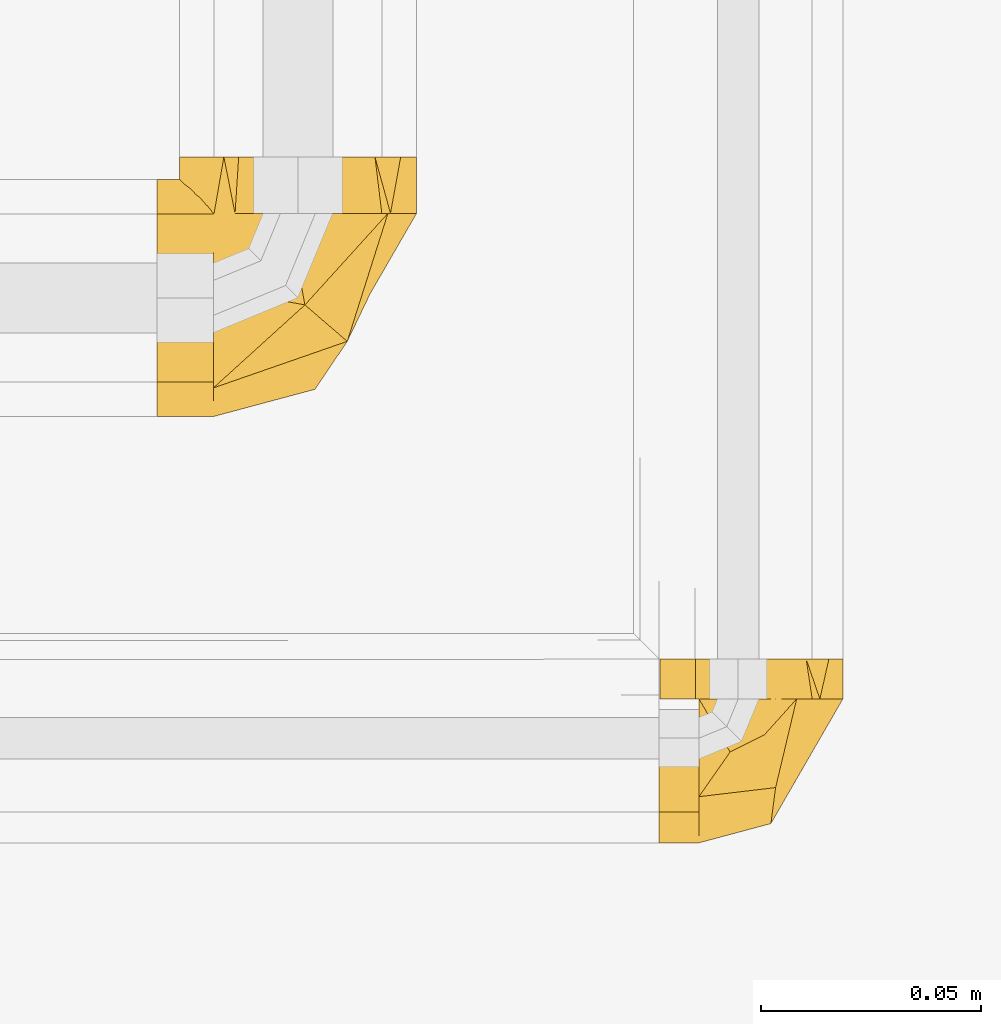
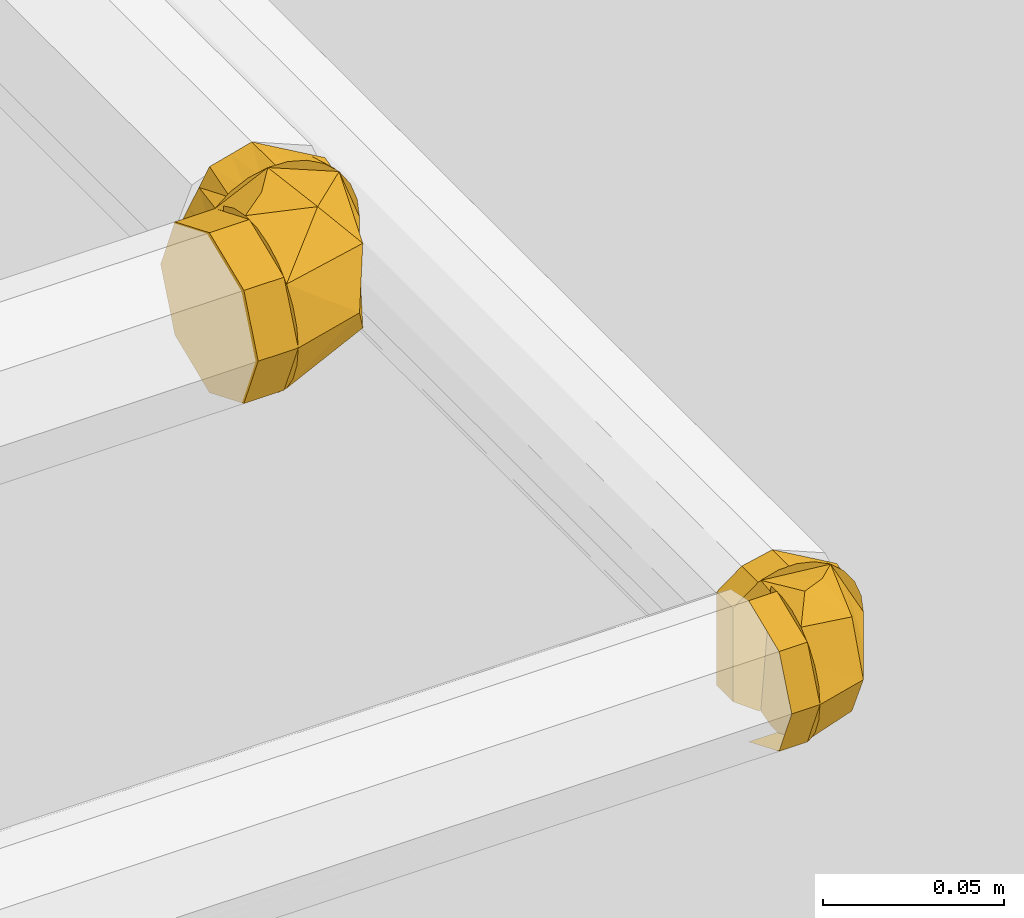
# One storey, part 307 of 652: 2 coverings.
"""IFC2X3 building model written with IfcOpenShell, lengths in millimetres."""

from ifc_helpers import new_model, entity, si_unit, converted_unit, direction, frame, origin, place, context, subcontext, project, spatial, face_set, surface_model, material, type_object, element, save


model = new_model("IFC2X3")

# Units and contexts
model_context = context("Model", 3, precision=0.01, world=frame((0.0, 0.0, 308426.39999999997)), true_north=direction((6.123233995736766e-17, 1.0)))
plan_context = context("Plan", 3, precision=0.01, world=frame((0.0, 0.0, 308426.39999999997)), true_north=direction((6.123233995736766e-17, 1.0)))
body_context = subcontext(model_context, "Body", "Model", "MODEL_VIEW")
ifc_project = project(units=[si_unit("LENGTHUNIT", "METRE", prefix="MILLI"), si_unit("AREAUNIT", "SQUARE_METRE"), si_unit("VOLUMEUNIT", "CUBIC_METRE"), converted_unit("PLANEANGLEUNIT", "DEGREE", entity("IfcPlaneAngleMeasure", 0.017453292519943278), si_unit("PLANEANGLEUNIT", "RADIAN"), dimensions=[0, 0, 0, 0, 0, 0, 0])], contexts=[model_context, plan_context])

# Site, building, storey
site_placement = place(None, origin())
site = spatial("IfcSite", under=ifc_project, at=site_placement, Name="Default", CompositionType="ELEMENT")
building_placement = place(site_placement, origin())
building = spatial("IfcBuilding", under=site, at=building_placement, CompositionType="ELEMENT")
storey_placement = place(building_placement, frame((0.0, 0.0, 1730.6999999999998)))
storey = spatial("IfcBuildingStorey", under=building, at=storey_placement, Name="EG_Produktion_FFB", CompositionType="ELEMENT", Elevation=1730.6999999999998)

# Coverings
ifc_material = material(Name="Dämmung - Armaflex-Schlauch")
covering_type = type_object("IfcCoveringType", Name="Rohrdämmung außen:Armaflex-Schlauch", PredefinedType="INSULATION")
covering_1_placement = place(storey_placement, frame((22456.694571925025, 55699.3730683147, 3371.467227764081)))
element("IfcCovering", 1, at=covering_1_placement, inside=storey, type_object=covering_type, material=ifc_material, Name="Rohrdämmung außen:Armaflex-Schlauch", ObjectType="Rohrdämmung außen:Armaflex-Schlauch", PredefinedType="INSULATION", context=body_context, shape_type="SurfaceModel", body=[
    surface_model("IfcFaceBasedSurfaceModel", [(12.766250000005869, 47.750272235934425, 9.656421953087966), (12.766250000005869, 42.79223424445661, 5.678961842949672), (12.766250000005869, 37.040242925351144, 2.9739802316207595), (12.766250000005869, 30.81456370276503, 1.6920879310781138), (12.766250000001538, 24.461836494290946, 1.904659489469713), (12.766250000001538, 18.3357751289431, 3.599859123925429), (12.766250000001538, 12.777472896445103, 6.683299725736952), (12.766250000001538, 8.096410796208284, 10.983298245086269), (12.766250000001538, 4.553225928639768, 16.26043484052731), (12.766250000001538, 2.345199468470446, 22.220883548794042), (12.766250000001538, 1.5952722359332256, 28.53277223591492), (12.766250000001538, 2.345199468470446, 34.844660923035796), (12.766250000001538, 4.553225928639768, 40.80510963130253), (12.766250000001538, 8.096410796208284, 46.08224622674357), (12.766250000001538, 12.777472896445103, 50.38224474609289), (12.766250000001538, 18.3357751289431, 53.46568534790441), (12.766250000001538, 24.461836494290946, 55.16088498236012), (12.766250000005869, 30.81456370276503, 55.373456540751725), (12.766250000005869, 37.040242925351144, 54.09156424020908), (12.766250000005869, 42.79223424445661, 51.38658262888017), (12.766250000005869, 47.750272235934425, 47.409122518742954), (17.72428799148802, 47.750272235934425, 5.678961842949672), (23.476279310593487, 47.750272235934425, 2.9739802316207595), (29.701958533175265, 47.750272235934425, 1.6920879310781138), (36.05468574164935, 47.750272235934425, 1.904659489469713), (42.180747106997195, 47.750272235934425, 3.599859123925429), (47.739049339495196, 47.750272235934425, 6.683299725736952), (52.420111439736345, 47.75027223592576, 10.983298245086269), (55.96329630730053, 47.75027223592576, 16.26043484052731), (58.17132276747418, 47.75027223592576, 22.220883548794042), (58.92125000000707, 47.75027223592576, 28.53277223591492), (58.17132276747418, 47.75027223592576, 34.844660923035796), (55.96329630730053, 47.75027223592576, 40.80510963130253), (52.420111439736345, 47.75027223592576, 46.08224622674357), (47.739049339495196, 47.750272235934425, 50.38224474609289), (42.180747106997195, 47.750272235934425, 53.46568534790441), (36.05468574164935, 47.750272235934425, 55.16088498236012), (29.701958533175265, 47.750272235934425, 55.373456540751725), (23.476279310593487, 47.750272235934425, 54.09156424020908), (17.72428799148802, 47.750272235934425, 51.38658262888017), (22.710054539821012, 39.07123100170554, 2.276435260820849), (35.84413657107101, 7.780117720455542, 28.532972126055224), (12.76647543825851, 19.453823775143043, 6.337815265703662), (33.56520590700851, 26.95104057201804, 3.599610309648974), (43.18322348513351, 18.67247611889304, 14.28500459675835), (48.37592978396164, 29.485769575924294, 28.532972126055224), (41.06009726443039, 47.749771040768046, 6.337815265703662), (43.18322348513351, 18.67247611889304, 42.78035829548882), (33.56520590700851, 26.95104057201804, 53.46575258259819), (22.710054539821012, 39.07123100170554, 54.7895089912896), (41.06009726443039, 47.749771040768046, 50.72812898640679), (12.76647543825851, 19.453823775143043, 50.72812898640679), (0.0, 1.5952722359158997, 28.532772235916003), (0.0, 3.567725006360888, 33.29469446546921), (0.0, 5.54017777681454, 38.05661669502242), (0.0, 7.512630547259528, 42.818538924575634), (0.0, 9.485083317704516, 47.58046115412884), (0.0, 14.247005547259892, 49.552913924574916), (0.0, 19.008927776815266, 51.525366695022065), (0.0, 23.77085000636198, 53.49781946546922), (0.0, 28.532772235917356, 55.470272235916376), (0.0, 33.29469446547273, 53.49781946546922), (0.0, 38.05661669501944, 51.525366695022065), (0.0, 42.81853892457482, 49.552913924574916), (0.0, 47.5804611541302, 47.58046115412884), (0.0, 49.55291392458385, 42.818538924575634), (0.0, 51.525366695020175, 38.05661669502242), (0.0, 53.49781946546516, 33.29469446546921), (0.0, 55.47027223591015, 28.532772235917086), (0.0, 53.497819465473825, 23.770850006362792), (0.0, 51.525366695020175, 19.008927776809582), (0.0, 49.55291392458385, 14.247005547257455), (0.0, 47.5804611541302, 9.485083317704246), (0.0, 42.818538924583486, 7.512630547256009), (0.0, 38.05661669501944, 5.540177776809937), (0.0, 33.29469446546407, 3.567725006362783), (0.0, 28.532772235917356, 1.595272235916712), (0.0, 23.77085000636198, 3.567725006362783), (0.0, 19.008927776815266, 5.540177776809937), (0.0, 14.247005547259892, 7.512630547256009), (0.0, 9.485083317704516, 9.485083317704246), (0.0, 7.512630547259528, 14.247005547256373), (0.0, 5.54017777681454, 19.008927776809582), (0.0, 3.567725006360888, 23.770850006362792), (12.766250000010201, 1.5952722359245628, 28.532772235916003), (12.766250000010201, 3.567725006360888, 23.770850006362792), (12.766250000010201, 5.54017777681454, 19.0089277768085), (12.766250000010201, 7.512630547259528, 14.24700554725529), (12.766250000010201, 9.48508331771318, 9.485083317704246), (12.766250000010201, 15.253472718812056, 7.095738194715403), (12.766250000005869, 21.021862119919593, 4.7063930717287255), (12.766250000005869, 28.532772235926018, 1.595272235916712), (12.766250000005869, 33.29469446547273, 3.567725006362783), (12.766250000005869, 38.05661669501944, 5.540177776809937), (12.766250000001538, 42.81853892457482, 7.512630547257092), (12.766250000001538, 47.58046115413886, 9.485083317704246), (12.766250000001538, 49.96980627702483, 15.25347271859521), (12.766250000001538, 52.35915139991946, 21.021862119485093), (12.766250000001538, 55.47027223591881, 28.532772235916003), (12.766250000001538, 53.497819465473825, 33.294694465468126), (12.766250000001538, 51.525366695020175, 38.05661669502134), (12.766250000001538, 49.552913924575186, 42.81853892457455), (12.766250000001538, 47.58046115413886, 47.58046115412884), (12.766250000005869, 41.8120717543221, 49.96980627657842), (12.766250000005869, 36.043682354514, 52.359151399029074), (12.766250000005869, 28.532772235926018, 55.470272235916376), (12.766250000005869, 23.770850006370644, 53.49781946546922), (12.766250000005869, 19.008927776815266, 51.52536669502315), (12.766250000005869, 14.247005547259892, 49.552913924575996), (12.766250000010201, 9.48508331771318, 47.58046115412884), (12.766250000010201, 7.095738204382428, 41.81207177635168), (12.766250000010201, 4.706393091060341, 36.043682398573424), (58.92125000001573, 60.51652223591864, 28.532772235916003), (55.554062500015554, 60.51652223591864, 22.700632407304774), (52.18687500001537, 60.516522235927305, 16.868492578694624), (48.819687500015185, 60.516522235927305, 11.036352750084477), (45.45250000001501, 60.51652223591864, 5.204212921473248), (38.718125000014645, 60.51652223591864, 3.399742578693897), (31.98375000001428, 60.51652223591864, 1.595272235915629), (26.151610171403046, 60.516522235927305, 4.962459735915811), (20.319470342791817, 60.516522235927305, 8.329647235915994), (14.487330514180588, 60.51652223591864, 11.696834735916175), (8.655190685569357, 60.51652223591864, 15.064022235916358), (6.85072034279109, 60.51652223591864, 21.79839723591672), (5.046250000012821, 60.51652223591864, 28.532772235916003), (8.413437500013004, 60.516522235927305, 34.36491206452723), (11.780625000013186, 60.516522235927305, 40.19705189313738), (15.147812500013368, 60.516522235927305, 46.02919172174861), (18.51500000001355, 60.51652223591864, 51.86133155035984), (25.249375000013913, 60.51652223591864, 53.66580189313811), (31.98375000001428, 60.51652223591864, 55.470272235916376), (37.81588982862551, 60.516522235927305, 52.10308473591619), (43.64802965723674, 60.516522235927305, 48.73589723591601), (49.480169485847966, 60.516522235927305, 45.36870973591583), (55.3123093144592, 60.51652223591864, 42.00152223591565), (57.116779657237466, 60.51652223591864, 35.26714723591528), (27.2218277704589, 47.75027223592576, 53.49781946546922), (22.459905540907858, 47.75027223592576, 51.525366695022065), (17.697983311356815, 47.75027223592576, 49.552913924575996), (12.936061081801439, 47.75027223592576, 47.58046115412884), (10.96360831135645, 47.75027223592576, 42.818538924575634), (8.99115554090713, 47.75027223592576, 38.05661669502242), (7.01870277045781, 47.75027223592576, 33.29469446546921), (5.046250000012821, 47.75027223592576, 28.532772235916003), (7.01870277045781, 47.75027223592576, 23.770850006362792), (8.99115554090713, 47.75027223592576, 19.008927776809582), (10.96360831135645, 47.750272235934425, 14.247005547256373), (12.936061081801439, 47.75027223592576, 9.485083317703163), (17.697983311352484, 47.75027223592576, 7.512630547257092), (22.459905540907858, 47.75027223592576, 5.540177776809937), (27.2218277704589, 47.75027223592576, 3.567725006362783), (31.98375000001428, 47.75027223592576, 1.595272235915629), (36.74567222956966, 47.75027223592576, 3.567725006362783), (41.507594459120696, 47.75027223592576, 5.540177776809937), (46.26951668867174, 47.75027223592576, 7.512630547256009), (51.03143891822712, 47.75027223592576, 9.485083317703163), (53.00389168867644, 47.75027223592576, 14.247005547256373), (54.97634445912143, 47.75027223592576, 19.008927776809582), (56.948797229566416, 47.75027223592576, 23.77085000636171), (58.921250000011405, 47.75027223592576, 28.532772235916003), (56.948797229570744, 47.75027223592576, 33.29469446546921), (54.97634445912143, 47.75027223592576, 38.05661669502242), (53.003891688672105, 47.75027223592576, 42.81853892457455), (51.03143891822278, 47.75027223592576, 47.58046115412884), (46.26951668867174, 47.75027223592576, 49.552913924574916), (41.507594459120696, 47.75027223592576, 51.525366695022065), (36.74567222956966, 47.75027223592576, 53.49781946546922), (31.98375000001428, 47.75027223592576, 55.470272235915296)], [face_set([[[0, 1, 2, 3, 4, 5, 6, 7, 8, 9, 10, 11, 12, 13, 14, 15, 16, 17, 18, 19]], [[20, 21, 22, 23, 24, 25, 26, 27, 28, 29, 30, 31, 32, 33, 34, 35, 36, 37, 38, 39]], [[0, 40, 3]], [[10, 7, 41]], [[42, 3, 43]], [[40, 43, 3]], [[23, 40, 0]], [[7, 43, 44]], [[45, 41, 44]], [[7, 44, 41]], [[27, 30, 45]], [[45, 44, 27]], [[43, 27, 44]], [[43, 23, 46]], [[43, 7, 42]], [[23, 43, 40]], [[46, 27, 43]], [[13, 10, 41]], [[33, 47, 45]], [[45, 30, 33]], [[48, 47, 33]], [[49, 48, 37]], [[48, 50, 37]], [[45, 47, 41]], [[20, 49, 37]], [[47, 48, 13]], [[17, 49, 20]], [[41, 47, 13]], [[48, 17, 51]], [[48, 33, 50]], [[17, 48, 49]], [[51, 13, 48]]]), face_set([[[52, 53, 54, 55, 56, 57, 58, 59, 60, 61, 62, 63, 64, 65, 66, 67, 68, 69, 70, 71, 72, 73, 74, 75, 76, 77, 78, 79, 80, 81, 82, 83]], [[84, 85, 86, 87, 88, 89, 90, 91, 92, 93, 94, 95, 96, 97, 98, 99, 100, 101, 102, 103, 104, 105, 106, 107, 108, 109, 110, 111]], [[111, 110, 109, 56, 55, 54, 53, 52, 84]], [[56, 109, 108, 107, 106, 105, 60, 59, 58, 57]], [[104, 103, 102, 64, 63, 62, 61, 60, 105]], [[64, 102, 101, 100, 99, 98, 68, 67, 66, 65]], [[97, 96, 95, 72, 71, 70, 69, 68, 98]], [[72, 95, 94, 93, 92, 91, 76, 75, 74, 73]], [[90, 89, 88, 80, 79, 78, 77, 76, 91]], [[80, 88, 87, 86, 85, 84, 52, 83, 82, 81]]]), face_set([[[112, 113, 114, 115, 116, 117, 118, 119, 120, 121, 122, 123, 124, 125, 126, 127, 128, 129, 130, 131, 132, 133, 134, 135]], [[136, 137, 138, 139, 140, 141, 142, 143, 144, 145, 146, 147, 148, 149, 150, 151, 152, 153, 154, 155, 156, 157, 158, 159, 160, 161, 162, 163, 164, 165, 166, 167]], [[146, 121, 147]], [[118, 150, 119]], [[150, 149, 119]], [[123, 145, 144]], [[144, 143, 124]], [[121, 146, 122]], [[120, 149, 148]], [[118, 151, 150]], [[149, 120, 119]], [[124, 123, 144]], [[148, 147, 121]], [[146, 145, 122]], [[123, 122, 145]], [[120, 148, 121]], [[154, 115, 155]], [[112, 158, 113]], [[158, 157, 113]], [[117, 153, 152]], [[152, 151, 118]], [[115, 154, 116]], [[114, 157, 156]], [[112, 159, 158]], [[157, 114, 113]], [[118, 117, 152]], [[156, 155, 115]], [[154, 153, 116]], [[117, 116, 153]], [[114, 156, 115]], [[162, 133, 163]], [[130, 166, 131]], [[166, 165, 131]], [[135, 161, 160]], [[160, 159, 112]], [[133, 162, 134]], [[132, 165, 164]], [[130, 167, 166]], [[165, 132, 131]], [[112, 135, 160]], [[164, 163, 133]], [[162, 161, 134]], [[135, 134, 161]], [[132, 164, 133]], [[138, 127, 139]], [[124, 142, 125]], [[142, 141, 125]], [[129, 137, 136]], [[136, 167, 130]], [[127, 138, 128]], [[126, 141, 140]], [[124, 143, 142]], [[141, 126, 125]], [[130, 129, 136]], [[140, 139, 127]], [[138, 137, 128]], [[129, 128, 137]], [[126, 140, 127]]])]),
])
covering_2_placement = place(storey_placement, frame((22569.28940103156, 55602.54806831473, 3274.642227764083)))
element("IfcCovering", 2, at=covering_2_placement, inside=storey, type_object=covering_type, material=ifc_material, Name="Rohrdämmung außen:Armaflex-Schlauch", ObjectType="Rohrdämmung außen:Armaflex-Schlauch", PredefinedType="INSULATION", context=body_context, shape_type="SurfaceModel", body=[
    surface_model("IfcFaceBasedSurfaceModel", [(10.45842089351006, 34.28827223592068, 3.337268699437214), (10.45842089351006, 28.691896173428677, 1.8303409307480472), (10.45842089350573, 22.897179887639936, 1.72301199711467), (10.45842089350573, 17.248839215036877, 3.0216666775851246), (10.45842089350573, 12.082882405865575, 5.64905065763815), (10.458420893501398, 7.706621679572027, 9.448866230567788), (10.458420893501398, 4.380391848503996, 14.195070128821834), (10.458420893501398, 2.3020635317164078, 19.605320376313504), (10.458420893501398, 1.5952722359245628, 25.35777223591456), (10.458420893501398, 2.3020635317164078, 31.110224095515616), (10.458420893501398, 4.380391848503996, 36.52047434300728), (10.458420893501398, 7.706621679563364, 41.26667824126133), (10.45842089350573, 12.082882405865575, 45.06649381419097), (10.45842089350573, 17.248839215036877, 47.693877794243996), (10.45842089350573, 22.897179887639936, 48.992532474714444), (10.45842089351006, 28.691896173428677, 48.88520354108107), (10.45842089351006, 34.28827223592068, 47.3782757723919), (16.054796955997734, 34.28827223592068, 1.8303409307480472), (21.849513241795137, 34.28827223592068, 1.72301199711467), (27.497853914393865, 34.28827223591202, 3.0216666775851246), (32.663810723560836, 34.28827223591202, 5.64905065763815), (37.04007144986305, 34.28827223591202, 9.448866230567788), (40.36630128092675, 34.28827223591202, 14.195070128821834), (42.444629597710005, 34.28827223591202, 19.605320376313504), (43.15142089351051, 34.28827223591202, 25.35777223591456), (42.444629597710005, 34.28827223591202, 31.110224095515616), (40.36630128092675, 34.28827223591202, 36.52047434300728), (37.04007144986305, 34.28827223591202, 41.26667824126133), (32.663810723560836, 34.28827223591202, 45.06649381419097), (27.497853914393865, 34.28827223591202, 47.693877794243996), (21.849513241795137, 34.28827223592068, 48.992532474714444), (16.054796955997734, 34.28827223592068, 48.88520354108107), (25.366330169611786, 26.168044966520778, 2.9985803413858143), (27.880130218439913, 14.150173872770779, 9.499346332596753), (21.431686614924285, 34.28847953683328, 4.479885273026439), (10.45793783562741, 6.778530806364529, 15.617577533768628), (26.805777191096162, 5.973928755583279, 25.35768068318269), (37.90742514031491, 34.28847953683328, 15.503631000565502), (35.60756552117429, 21.21950981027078, 25.35768068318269), (17.538900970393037, 22.22409965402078, 2.1399118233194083), (10.45793783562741, 23.18683158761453, 4.493256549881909), (25.366330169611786, 26.168044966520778, 47.71678102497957), (17.538900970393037, 22.22409965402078, 48.57544954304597), (27.880130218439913, 14.150173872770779, 41.21659639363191), (10.45793783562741, 6.778530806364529, 35.097783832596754), (21.431686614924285, 34.28847953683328, 46.23605745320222), (37.96788656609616, 34.28847953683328, 35.097783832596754), (34.97737142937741, 20.13120414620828, 25.35768068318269), (10.45793783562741, 23.18683158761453, 46.22210481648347), (1.4375581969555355, 25.35879203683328, 1.595177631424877), (10.45793783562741, 25.35879203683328, 1.595177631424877), (10.45793783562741, 8.555166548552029, 8.555217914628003), (1.4375581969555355, 8.555166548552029, 8.555217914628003), (10.45793783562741, 1.597451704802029, 25.35768068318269), (1.4375581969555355, 1.597451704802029, 25.35768068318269), (10.45793783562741, 8.555166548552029, 42.160143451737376), (1.4375581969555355, 8.555166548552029, 42.160143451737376), (10.45793783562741, 25.35879203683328, 49.120183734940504), (1.4375581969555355, 25.35879203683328, 49.120183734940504), (24.53365305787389, 43.30802223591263, 46.14995973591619), (29.678385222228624, 43.30802223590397, 43.17964723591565), (34.82311738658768, 43.30802223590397, 40.209334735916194), (39.96784955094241, 43.30802223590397, 37.23902223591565), (41.559635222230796, 43.30802223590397, 31.298397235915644), (43.151420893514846, 43.30802223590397, 25.35777223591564), (40.18110839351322, 43.30802223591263, 20.213040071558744), (37.21079589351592, 43.30802223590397, 15.06830790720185), (34.24048339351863, 43.30802223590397, 9.923575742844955), (31.270170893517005, 43.30802223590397, 4.7788435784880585), (25.329545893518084, 43.30802223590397, 3.1870579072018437), (19.388920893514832, 43.30802223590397, 1.595272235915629), (14.510241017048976, 43.30802223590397, 2.64312091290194), (9.63156114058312, 43.30802223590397, 3.690969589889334), (5.613416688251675, 43.30802223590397, 6.649688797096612), (1.5952722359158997, 43.30802223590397, 9.608408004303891), (1.5952722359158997, 43.30802223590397, 41.10713646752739), (5.613416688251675, 43.30802223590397, 44.06585567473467), (9.63156114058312, 43.30802223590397, 47.02457488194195), (14.510241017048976, 43.30802223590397, 48.072423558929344), (19.388920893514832, 43.30802223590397, 49.12027223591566), (9.63156114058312, 34.28827223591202, 47.024574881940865), (5.504797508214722, 34.28827223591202, 43.985875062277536), (1.5952722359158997, 34.28827223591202, 41.10713646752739), (1.5952722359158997, 34.28827223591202, 9.608408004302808), (5.613416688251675, 34.28827223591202, 6.649688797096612), (9.63156114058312, 34.28827223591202, 3.690969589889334), (14.642122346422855, 34.28827223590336, 2.614795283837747), (19.388920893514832, 34.28827223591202, 1.595272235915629), (23.58957711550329, 34.28827223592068, 3.335241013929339), (27.790233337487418, 34.28827223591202, 5.075209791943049), (31.990889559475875, 34.28827223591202, 6.8151785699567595), (36.19154578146, 34.28827223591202, 8.55514734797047), (37.9315145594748, 34.28827223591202, 12.755803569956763), (39.67148333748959, 34.28827223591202, 16.956459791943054), (41.41145211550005, 34.28827223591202, 21.157116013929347), (43.151420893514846, 34.28827223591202, 25.35777223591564), (41.41145211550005, 34.28827223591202, 29.558428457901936), (39.67148333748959, 34.28827223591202, 33.759084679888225), (37.9315145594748, 34.28827223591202, 37.95974090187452), (36.19154578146, 34.28827223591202, 42.16039712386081), (31.990889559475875, 34.28827223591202, 43.90036590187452), (27.790233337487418, 34.28827223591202, 45.640334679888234), (23.58957711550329, 34.28827223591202, 47.380303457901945), (19.388920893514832, 34.28827223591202, 49.12027223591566), (14.510241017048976, 34.28827223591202, 48.072423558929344)], [face_set([[[0, 1, 2, 3, 4, 5, 6, 7, 8, 9, 10, 11, 12, 13, 14, 15]], [[16, 17, 18, 19, 20, 21, 22, 23, 24, 25, 26, 27, 28, 29, 30, 31]], [[32, 20, 33]], [[32, 34, 20]], [[33, 35, 4]], [[35, 33, 36]], [[36, 8, 35]], [[33, 37, 38]], [[39, 4, 40, 0]], [[32, 33, 39]], [[34, 32, 0]], [[4, 39, 33]], [[38, 36, 33]], [[0, 32, 39]], [[33, 20, 37]], [[37, 24, 38]], [[41, 16, 42]], [[43, 44, 36]], [[28, 45, 41]], [[46, 43, 47]], [[44, 8, 36]], [[12, 43, 42]], [[44, 43, 12]], [[42, 16, 48]], [[28, 43, 46]], [[16, 41, 45]], [[43, 41, 42]], [[43, 36, 47]], [[47, 24, 46]], [[28, 41, 43]], [[48, 12, 42]]]), face_set([[[49, 50, 51, 52]], [[53, 54, 52, 51]], [[54, 53, 55, 56]], [[57, 58, 56, 55]]]), face_set([[[59, 60, 61, 62, 63, 64, 65, 66, 67, 68, 69, 70, 71, 72, 73, 74, 75, 76, 77, 78, 79]], [[80, 81, 82, 83, 84, 85, 86, 87, 88, 89, 90, 91, 92, 93, 94, 95, 96, 97, 98, 99, 100, 101, 102, 103, 104]], [[75, 74, 83, 82]], [[71, 70, 87, 86, 85, 72]], [[73, 72, 85, 84, 83, 74]], [[90, 67, 91]], [[64, 94, 65]], [[94, 93, 65]], [[69, 89, 88]], [[88, 87, 70]], [[67, 90, 68]], [[66, 93, 92]], [[64, 95, 94]], [[93, 66, 65]], [[70, 69, 88]], [[92, 91, 67]], [[90, 89, 68]], [[69, 68, 89]], [[66, 92, 67]], [[98, 61, 99]], [[79, 102, 59]], [[102, 101, 59]], [[63, 97, 96]], [[96, 95, 64]], [[61, 98, 62]], [[60, 101, 100]], [[79, 103, 102]], [[101, 60, 59]], [[64, 63, 96]], [[100, 99, 61]], [[98, 97, 62]], [[63, 62, 97]], [[60, 100, 61]], [[76, 75, 82, 81, 80, 77]], [[78, 77, 80, 104, 103, 79]]])]),
])

save(model, "model.ifc")
